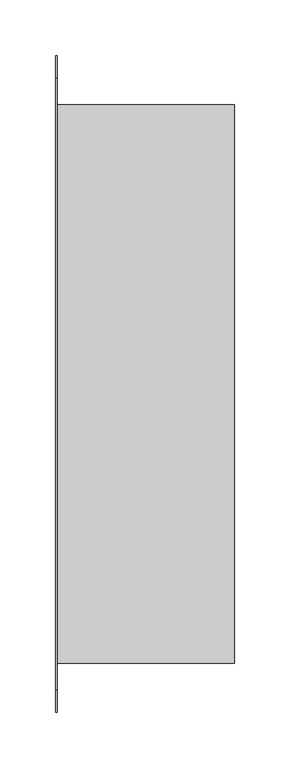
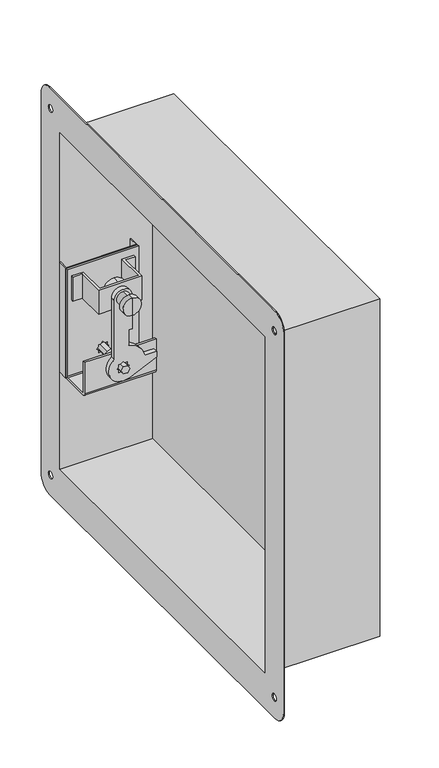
"""IFC4 building model written with IfcOpenShell, lengths in millimetres: damper geometry, СВ_КлапанПротивопожарный_КДМ-2М-3_НЗ_СтеновойПрямоугольный_СВОК : КДМ-3_Привод ЭМ."""

from ifc_helpers import new_model, si_unit, frame, origin, place, context, project, spatial, polyline, circle_curve, outline, extrude, source, transform, mapped, element, save
from ifc_brep_helpers import plane_surface, cylinder_surface, revolved_surface, advanced_brep


def damper_bef475e9(model_context):
    return source(origin(), model_context, "Body", "SolidModel", [
        extrude(outline(polyline([(-78.8298911, 248.8), (-78.8298911, 235.0), (18.8, 235.0), (18.8, 248.8), (20.0, 248.8), (20.0, 233.8), (-80.0298911, 233.8), (-80.0298911, 248.8), (-78.8298911, 248.8)])), frame((0.0, 0.0, -105.0), z_axis=(0.0, 0.0, 1.0), x_axis=(1.0, 0.0, 0.0)), (0.0, 0.0, 1.0), 162.5),
        advanced_brep(
        [(-30.0, 159.8, 40.8717586), (-30.0, 159.8, 15.1282414), (-30.0, 159.8, 28.0), (-30.0, 167.677025, 40.8717586), (-30.0, 167.677025, 15.1282414), (-30.0, 167.677025, 37.0972194), (-30.0, 167.677025, 18.9027806), (-30.0, 181.8, 37.0972194), (-30.0, 181.8, 18.9027806), (-30.0, 181.8, 28.0)],
        [
            (0, 1, circle_curve(frame((-30.0, 159.8, 28.0), z_axis=(0.0, -1.0, 0.0), x_axis=(0.0, 0.0, -1.0)), 12.8717586)),
            (1, 2),
            (2, 0),
            (1, 0, circle_curve(frame((-30.0, 159.8, 28.0), z_axis=(0.0, -1.0, 0.0), x_axis=(0.0, 0.0, -1.0)), 12.8717586)),
            (3, 4, circle_curve(frame((-30.0, 167.677025, 28.0), z_axis=(0.0, -1.0, 0.0), x_axis=(0.0, 0.0, -1.0)), 12.8717586)),
            (4, 1),
            (0, 3),
            (4, 3, circle_curve(frame((-30.0, 167.677025, 28.0), z_axis=(0.0, -1.0, 0.0), x_axis=(0.0, 0.0, -1.0)), 12.8717586)),
            (5, 6, circle_curve(frame((-30.0, 167.677025, 28.0), z_axis=(0.0, -1.0, 0.0), x_axis=(0.0, 0.0, -1.0)), 9.0972194)),
            (6, 4),
            (3, 5),
            (6, 5, circle_curve(frame((-30.0, 167.677025, 28.0), z_axis=(0.0, -1.0, 0.0), x_axis=(0.0, 0.0, -1.0)), 9.0972194)),
            (7, 8, circle_curve(frame((-30.0, 181.8, 28.0), z_axis=(0.0, -1.0, 0.0), x_axis=(0.0, 0.0, -1.0)), 9.0972194)),
            (8, 6),
            (5, 7),
            (8, 7, circle_curve(frame((-30.0, 181.8, 28.0), z_axis=(0.0, -1.0, 0.0), x_axis=(0.0, 0.0, -1.0)), 9.0972194)),
            (9, 8),
            (7, 9),
        ],
        [
            plane_surface(frame((-30.0, 159.8, 28.0), z_axis=(0.0, -1.0, 0.0), x_axis=(0.0, 0.0, -1.0))),
            cylinder_surface(frame((-30.0, 181.8, 28.0), z_axis=(0.0, 1.0, 0.0), x_axis=(0.0, 0.0, -1.0)), 12.8717586),
            plane_surface(frame((-30.0, 167.677025, 28.0), z_axis=(0.0, 1.0, 0.0), x_axis=(0.0, 0.0, -1.0))),
            cylinder_surface(frame((-30.0, 181.8, 28.0), z_axis=(0.0, 1.0, 0.0), x_axis=(0.0, 0.0, -1.0)), 9.0972194),
            plane_surface(frame((-30.0, 181.8, 28.0), z_axis=(0.0, 1.0, 0.0), x_axis=(0.0, 0.0, -1.0))),
        ],
        [
            (0, [[1, 2, 3]]),
            (0, [[4, -3, -2]]),
            (1, [[5, 6, -1, 7]]),
            (1, [[8, -7, -4, -6]]),
            (2, [[9, 10, -5, 11]]),
            (2, [[12, -11, -8, -10]]),
            (3, [[13, 14, -9, 15]]),
            (3, [[16, -15, -12, -14]]),
            (4, [[17, -13, 18]]),
            (4, [[-18, -16, -17]]),
        ],
    ),
        advanced_brep(
        [(-60.37371, 188.3367477, 45.900028), (-0.37371, 188.3367477, 45.900028), (-0.37371, 227.8, 45.900028), (13.1888336, 227.8, 45.900028), (13.1888336, 230.8, 45.900028), (-3.37371, 230.8, 45.900028), (-3.37371, 191.3367477, 45.900028), (-30.37371, 191.3367477, 45.900028), (-57.37371, 191.3367477, 45.900028), (-57.37371, 230.8, 45.900028), (-73.9362537, 230.8, 45.900028), (-73.9362537, 227.8, 45.900028), (-60.37371, 227.8, 45.900028), (-60.37371, 188.3367477, 10.2906263), (-60.37371, 227.8, 10.2906263), (-73.9362537, 227.8, 10.2906263), (-73.9362537, 230.8, 10.2906263), (-57.37371, 230.8, 10.2906263), (-57.37371, 191.3367477, 10.2906263), (-30.37371, 191.3367477, 10.2906263), (-3.37371, 191.3367477, 10.2906263), (-3.37371, 230.8, 10.2906263), (13.1888336, 230.8, 10.2906263), (13.1888336, 227.8, 10.2906263), (-0.37371, 227.8, 10.2906263), (-0.37371, 188.3367477, 10.2906263), (-17.5531764, 188.3367477, 10.2906263), (-30.37371, 188.3367477, 10.2906263), (-42.4468236, 188.3367477, 10.2906263), (-30.37371, 191.3367477, 12.0153496), (-30.0, 191.3367477, 12.0109817), (-30.0, 191.3367477, 43.9890183), (-30.37371, 191.3367477, 43.9846504), (-42.4468236, 181.8, 28.0), (-42.4468236, 181.8, -59.345078), (-21.6781206, 181.8, -93.1864324), (16.7904973, 181.8, -75.5836838), (16.7904973, 181.8, -67.6282215), (0.2857987, 181.8, -67.6282215), (-22.3466574, 181.8, -44.7841255), (-22.3466574, 181.8, -22.0), (-17.5531764, 181.8, -22.0), (-17.5531764, 181.8, 28.0), (-38.4852814, 181.8, -75.0), (-35.9954463, 181.8, -72.5101649), (-35.9954463, 181.8, -69.0045537), (-32.4898351, 181.8, -69.0045537), (-30.0, 181.8, -66.5147186), (-27.5101649, 181.8, -69.0045537), (-24.0045537, 181.8, -69.0045537), (-24.0045537, 181.8, -72.5101649), (-21.5147186, 181.8, -75.0), (-24.0045537, 181.8, -77.4898351), (-24.0045537, 181.8, -80.9954463), (-27.5101649, 181.8, -80.9954463), (-30.0, 181.8, -83.4852814), (-32.4898351, 181.8, -80.9954463), (-35.9954463, 181.8, -80.9954463), (-35.9954463, 181.8, -77.4898351), (-17.5531764, 188.3367477, -22.0), (-22.3466574, 188.3367477, -22.0), (-22.3466574, 188.3367477, -44.7841255), (-6.6455014, 188.3367477, -54.3568384), (-42.4468236, 188.3367477, -54.3568384), (-17.5531764, 188.3367477, 28.0), (-42.4468236, 188.3367477, 28.0), (-42.4468236, 188.3367477, -59.345078), (-21.6781206, 188.3367477, -93.1864324), (16.7904973, 188.3367477, -75.5836838), (16.7904973, 188.3367477, -67.6282215), (0.2857987, 188.3367477, -67.6282215), (-30.0, 203.8, -90.9890183), (-30.0, 203.8, -59.0109817), (-35.9954463, 203.8, -72.5101649), (-38.4852814, 203.8, -75.0), (-35.9954463, 203.8, -77.4898351), (-35.9954463, 203.8, -80.9954463), (-32.4898351, 203.8, -80.9954463), (-30.0, 203.8, -83.4852814), (-27.5101649, 203.8, -80.9954463), (-24.0045537, 203.8, -80.9954463), (-24.0045537, 203.8, -77.4898351), (-21.5147186, 203.8, -75.0), (-24.0045537, 203.8, -72.5101649), (-24.0045537, 203.8, -69.0045537), (-27.5101649, 203.8, -69.0045537), (-30.0, 203.8, -66.5147186), (-32.4898351, 203.8, -69.0045537), (-35.9954463, 203.8, -69.0045537), (-30.0, 203.8, 12.0109817), (-30.0, 203.8, 43.9890183), (-30.0, 191.3367477, -59.0109817), (-30.0, 191.3367477, -90.9890183), (20.0, 233.8, -100.5), (20.0, 233.8, 57.5), (20.0, 230.8, 57.5), (20.0, 230.8, -100.5), (20.0, 229.3, -102.0), (20.0, 192.8662593, -102.0), (20.0, 191.3367477, -100.4704884), (20.0, 191.3367477, -54.3568384), (20.0, 188.3367477, -54.3568384), (20.0, 188.3367477, -100.4704884), (20.0, 192.8662593, -105.0), (20.0, 229.3, -105.0), (-80.0, 233.8, -100.5), (-80.0, 229.3, -105.0), (-80.0, 192.8662593, -105.0), (-80.0, 188.3367477, -100.4704884), (-80.0, 188.3367477, -54.3568384), (-80.0, 191.3367477, -54.3568384), (-80.0, 191.3367477, -100.4704884), (-80.0, 192.8662593, -102.0), (-80.0, 229.3, -102.0), (-80.0, 230.8, -100.5), (-80.0, 230.8, 57.5), (-80.0, 233.8, 57.5), (-35.9954463, 233.8, -72.5101649), (-38.4852814, 233.8, -75.0), (-35.9954463, 233.8, -77.4898351), (-35.9954463, 233.8, -80.9954463), (-32.4898351, 233.8, -80.9954463), (-30.0, 233.8, -83.4852814), (-27.5101649, 233.8, -80.9954463), (-24.0045537, 233.8, -80.9954463), (-24.0045537, 233.8, -77.4898351), (-21.5147186, 233.8, -75.0), (-24.0045537, 233.8, -72.5101649), (-24.0045537, 233.8, -69.0045537), (-27.5101649, 233.8, -69.0045537), (-30.0, 233.8, -66.5147186), (-32.4898351, 233.8, -69.0045537), (-35.9954463, 233.8, -69.0045537), (-38.4852814, 230.8, -75.0), (-35.9954463, 230.8, -72.5101649), (-35.9954463, 230.8, -69.0045537), (-32.4898351, 230.8, -69.0045537), (-30.0, 230.8, -66.5147186), (-27.5101649, 230.8, -69.0045537), (-24.0045537, 230.8, -69.0045537), (-24.0045537, 230.8, -72.5101649), (-21.5147186, 230.8, -75.0), (-24.0045537, 230.8, -77.4898351), (-24.0045537, 230.8, -80.9954463), (-27.5101649, 230.8, -80.9954463), (-30.0, 230.8, -83.4852814), (-32.4898351, 230.8, -80.9954463), (-35.9954463, 230.8, -80.9954463), (-35.9954463, 230.8, -77.4898351)],
        [
            (0, 1),
            (1, 2),
            (2, 3),
            (3, 4),
            (4, 5),
            (5, 6),
            (6, 7),
            (7, 8),
            (8, 9),
            (9, 10),
            (10, 11),
            (11, 12),
            (12, 0),
            (13, 14),
            (14, 15),
            (15, 16),
            (16, 17),
            (17, 18),
            (18, 19),
            (19, 20),
            (20, 21),
            (21, 22),
            (22, 23),
            (23, 24),
            (24, 25),
            (25, 26),
            (26, 27),
            (27, 28),
            (28, 13),
            (1, 25),
            (24, 2),
            (23, 3),
            (22, 4),
            (5, 21),
            (20, 6),
            (19, 29),
            (29, 30, circle_curve(frame((-30.0, 191.3367477, 28.0), z_axis=(0.0, -1.0, 0.0), x_axis=(0.0, 0.0, 1.0)), 15.9890183)),
            (30, 31, circle_curve(frame((-30.0, 191.3367477, 28.0), z_axis=(0.0, -1.0, 0.0), x_axis=(0.0, 0.0, 1.0)), 15.9890183)),
            (31, 32, circle_curve(frame((-30.0, 191.3367477, 28.0), z_axis=(0.0, -1.0, 0.0), x_axis=(0.0, 0.0, 1.0)), 15.9890183)),
            (32, 7),
            (32, 29, circle_curve(frame((-30.0, 191.3367477, 28.0), z_axis=(0.0, -1.0, 0.0), x_axis=(0.0, 0.0, 1.0)), 15.9890183)),
            (18, 8),
            (17, 9),
            (10, 16),
            (15, 11),
            (14, 12),
            (13, 0),
            (33, 34),
            (34, 35, circle_curve(frame((-30.0, 181.8, -75.0), z_axis=(0.0, -1.0, 0.0), x_axis=(0.0, 0.0, 1.0)), 20.0)),
            (35, 36),
            (36, 37),
            (37, 38),
            (38, 39, circle_curve(frame((-30.0, 181.8, -75.0), z_axis=(0.0, -1.0, 0.0), x_axis=(0.0, 0.0, 1.0)), 31.1700613)),
            (39, 40),
            (40, 41),
            (41, 42),
            (42, 33, circle_curve(frame((-30.0, 181.8, 28.0), z_axis=(0.0, -1.0, 0.0), x_axis=(0.0, 0.0, 1.0)), 12.4468236)),
            (43, 44),
            (44, 45),
            (45, 46),
            (46, 47),
            (47, 48),
            (48, 49),
            (49, 50),
            (50, 51),
            (51, 52),
            (52, 53),
            (53, 54),
            (54, 55),
            (55, 56),
            (56, 57),
            (57, 58),
            (58, 43),
            (59, 60),
            (60, 61),
            (61, 62, circle_curve(frame((-30.0, 188.3367477, -75.0), z_axis=(0.0, 1.0, 0.0), x_axis=(0.0, 0.0, 1.0)), 31.1700613)),
            (62, 63),
            (63, 28),
            (26, 59),
            (42, 64),
            (64, 65, circle_curve(frame((-30.0, 188.3367477, 28.0), z_axis=(0.0, -1.0, 0.0), x_axis=(0.0, 0.0, 1.0)), 12.4468236)),
            (65, 33),
            (34, 66),
            (66, 67, circle_curve(frame((-30.0, 188.3367477, -75.0), z_axis=(0.0, -1.0, 0.0), x_axis=(0.0, 0.0, 1.0)), 20.0)),
            (67, 35),
            (65, 28),
            (63, 66),
            (36, 68),
            (68, 69),
            (69, 37),
            (69, 70),
            (70, 38),
            (70, 62, circle_curve(frame((-30.0, 188.3367477, -75.0), z_axis=(0.0, -1.0, 0.0), x_axis=(0.0, 0.0, 1.0)), 31.1700613)),
            (61, 39),
            (60, 40),
            (59, 41),
            (26, 64),
            (71, 72, circle_curve(frame((-30.0, 203.8, -75.0), z_axis=(0.0, 1.0, 0.0), x_axis=(0.0, 0.0, 1.0)), 15.9890183)),
            (72, 71, circle_curve(frame((-30.0, 203.8, -75.0), z_axis=(0.0, 1.0, 0.0), x_axis=(0.0, 0.0, 1.0)), 15.9890183)),
            (73, 74),
            (74, 75),
            (75, 76),
            (76, 77),
            (77, 78),
            (78, 79),
            (79, 80),
            (80, 81),
            (81, 82),
            (82, 83),
            (83, 84),
            (84, 85),
            (85, 86),
            (86, 87),
            (87, 88),
            (88, 73),
            (89, 90, circle_curve(frame((-30.0, 203.8, 28.0), z_axis=(0.0, 1.0, 0.0), x_axis=(0.0, 0.0, 1.0)), 15.9890183)),
            (90, 89, circle_curve(frame((-30.0, 203.8, 28.0), z_axis=(0.0, 1.0, 0.0), x_axis=(0.0, 0.0, 1.0)), 15.9890183)),
            (72, 91),
            (91, 92, circle_curve(frame((-30.0, 191.3367477, -75.0), z_axis=(0.0, 1.0, 0.0), x_axis=(0.0, 0.0, 1.0)), 15.9890183)),
            (92, 71),
            (92, 91, circle_curve(frame((-30.0, 191.3367477, -75.0), z_axis=(0.0, 1.0, 0.0), x_axis=(0.0, 0.0, 1.0)), 15.9890183)),
            (90, 31),
            (30, 89),
            (93, 94),
            (94, 95),
            (95, 96),
            (96, 97, circle_curve(frame((20.0, 229.3, -100.5), z_axis=(-1.0, 0.0, 0.0), x_axis=(0.0, 0.0, 1.0)), 1.5)),
            (97, 98),
            (98, 99, circle_curve(frame((20.0, 192.8662593, -100.4704884), z_axis=(-1.0, 0.0, 0.0), x_axis=(0.0, 0.0, 1.0)), 1.5295116)),
            (99, 100),
            (100, 101),
            (101, 102),
            (102, 103, circle_curve(frame((20.0, 192.8662593, -100.4704884), z_axis=(1.0, 0.0, 0.0), x_axis=(0.0, 0.0, 1.0)), 4.5295116)),
            (103, 104),
            (104, 93, circle_curve(frame((20.0, 229.3, -100.5), z_axis=(1.0, 0.0, 0.0), x_axis=(0.0, 0.0, 1.0)), 4.5)),
            (105, 106, circle_curve(frame((-80.0, 229.3, -100.5), z_axis=(-1.0, 0.0, 0.0), x_axis=(0.0, 0.0, 1.0)), 4.5)),
            (106, 107),
            (107, 108, circle_curve(frame((-80.0, 192.8662593, -100.4704884), z_axis=(-1.0, 0.0, 0.0), x_axis=(0.0, 0.0, 1.0)), 4.5295116)),
            (108, 109),
            (109, 110),
            (110, 111),
            (111, 112, circle_curve(frame((-80.0, 192.8662593, -100.4704884), z_axis=(1.0, 0.0, 0.0), x_axis=(0.0, 0.0, 1.0)), 1.5295116)),
            (112, 113),
            (113, 114, circle_curve(frame((-80.0, 229.3, -100.5), z_axis=(1.0, 0.0, 0.0), x_axis=(0.0, 0.0, 1.0)), 1.5)),
            (114, 115),
            (115, 116),
            (116, 105),
            (93, 105),
            (116, 94),
            (117, 118),
            (118, 119),
            (119, 120),
            (120, 121),
            (121, 122),
            (122, 123),
            (123, 124),
            (124, 125),
            (125, 126),
            (126, 127),
            (127, 128),
            (128, 129),
            (129, 130),
            (130, 131),
            (131, 132),
            (132, 117),
            (115, 95),
            (114, 96),
            (133, 134),
            (134, 135),
            (135, 136),
            (136, 137),
            (137, 138),
            (138, 139),
            (139, 140),
            (140, 141),
            (141, 142),
            (142, 143),
            (143, 144),
            (144, 145),
            (145, 146),
            (146, 147),
            (147, 148),
            (148, 133),
            (113, 97),
            (112, 98),
            (111, 99),
            (110, 100),
            (109, 63),
            (62, 101),
            (68, 67),
            (108, 102),
            (107, 103),
            (106, 104),
            (73, 44),
            (43, 74),
            (117, 134),
            (133, 118),
            (58, 75),
            (148, 119),
            (57, 76),
            (147, 120),
            (56, 77),
            (146, 121),
            (55, 78),
            (145, 122),
            (54, 79),
            (144, 123),
            (53, 80),
            (143, 124),
            (52, 81),
            (142, 125),
            (51, 82),
            (141, 126),
            (50, 83),
            (140, 127),
            (49, 84),
            (139, 128),
            (48, 85),
            (138, 129),
            (47, 86),
            (137, 130),
            (46, 87),
            (136, 131),
            (45, 88),
            (135, 132),
        ],
        [
            plane_surface(frame((-60.37371, 188.3367477, 45.900028), z_axis=(0.0, 0.0, 1.0), x_axis=(1.0, 0.0, 0.0))),
            plane_surface(frame((-60.37371, 188.3367477, 10.2906263), z_axis=(0.0, 0.0, -1.0), x_axis=(-1.0, 0.0, 0.0))),
            plane_surface(frame((-0.37371, 188.3367477, 45.900028), z_axis=(1.0, 0.0, 0.0), x_axis=(0.0, 0.0, -1.0))),
            plane_surface(frame((-0.37371, 227.8, 45.900028), z_axis=(0.0, -1.0, 0.0), x_axis=(0.0, 0.0, -1.0))),
            plane_surface(frame((13.1888336, 227.8, 45.900028), z_axis=(1.0, 0.0, 0.0), x_axis=(0.0, 0.0, -1.0))),
            plane_surface(frame((-3.37371, 230.8, 45.900028), z_axis=(-1.0, 0.0, 0.0), x_axis=(0.0, 0.0, -1.0))),
            plane_surface(frame((-3.37371, 191.3367477, 45.900028), z_axis=(0.0, 1.0, 0.0), x_axis=(0.0, 0.0, -1.0))),
            plane_surface(frame((-30.37371, 191.3367477, 45.900028), z_axis=(0.0, 1.0, 0.0), x_axis=(0.0, 0.0, -1.0))),
            plane_surface(frame((-57.37371, 191.3367477, 45.900028), z_axis=(1.0, 0.0, 0.0), x_axis=(0.0, 0.0, -1.0))),
            plane_surface(frame((-73.9362537, 230.8, 45.900028), z_axis=(-1.0, 0.0, 0.0), x_axis=(0.0, 0.0, -1.0))),
            plane_surface(frame((-73.9362537, 227.8, 45.900028), z_axis=(0.0, -1.0, 0.0), x_axis=(0.0, 0.0, -1.0))),
            plane_surface(frame((-60.37371, 227.8, 45.900028), z_axis=(-1.0, 0.0, 0.0), x_axis=(0.0, 0.0, -1.0))),
            plane_surface(frame((-42.4468236, 181.8, 28.0), z_axis=(0.0, -1.0, 0.0), x_axis=(0.0, 0.0, -1.0))),
            plane_surface(frame((-42.4468236, 188.3367477, 28.0), z_axis=(0.0, 1.0, 0.0), x_axis=(0.0, 0.0, 1.0))),
            cylinder_surface(frame((-30.0, 188.3367477, 28.0), z_axis=(0.0, -1.0, 0.0), x_axis=(0.0, 0.0, 1.0)), 12.4468236),
            cylinder_surface(frame((-30.0, 188.3367477, -75.0), z_axis=(0.0, -1.0, 0.0), x_axis=(0.0, 0.0, 1.0)), 20.0),
            plane_surface(frame((-42.4468236, 181.8, 28.0), z_axis=(-1.0, 0.0, 0.0), x_axis=(0.0, 1.0, 0.0))),
            plane_surface(frame((16.7904973, 181.8, -75.5836838), z_axis=(1.0, 0.0, 0.0), x_axis=(0.0, 1.0, 0.0))),
            plane_surface(frame((16.7904973, 181.8, -67.6282215), z_axis=(0.0, 0.0, 1.0), x_axis=(0.0, 1.0, 0.0))),
            cylinder_surface(frame((-30.0, 188.3367477, -75.0), z_axis=(0.0, -1.0, 0.0), x_axis=(0.0, 0.0, 1.0)), 31.1700613),
            plane_surface(frame((-22.3466574, 181.8, -44.7841255), z_axis=(1.0, 0.0, 0.0), x_axis=(0.0, 1.0, 0.0))),
            plane_surface(frame((-22.3466574, 181.8, -22.0), z_axis=(0.0, 0.0, -1.0), x_axis=(0.0, 1.0, 0.0))),
            plane_surface(frame((-17.5531764, 181.8, -22.0), z_axis=(1.0, 0.0, 0.0), x_axis=(0.0, 1.0, 0.0))),
            plane_surface(frame((-30.0, 188.3367477, -59.0109817), z_axis=(0.0, -1.0, 0.0), x_axis=(-1.0, 0.0, 0.0))),
            plane_surface(frame((-30.0, 203.8, -59.0109817), z_axis=(0.0, 1.0, 0.0), x_axis=(1.0, 0.0, 0.0))),
            cylinder_surface(frame((-30.0, 203.8, -75.0), z_axis=(0.0, -1.0, 0.0), x_axis=(0.0, 0.0, 1.0)), 15.9890183),
            cylinder_surface(frame((-30.0, 248.8, 28.0), z_axis=(0.0, -1.0, 0.0), x_axis=(0.0, 0.0, 1.0)), 15.9890183),
            plane_surface(frame((20.0, 233.8, 57.5), z_axis=(1.0, 0.0, 0.0), x_axis=(0.0, 0.0, 1.0))),
            plane_surface(frame((-80.0, 233.8, 57.5), z_axis=(-1.0, 0.0, 0.0), x_axis=(0.0, 0.0, -1.0))),
            plane_surface(frame((20.0, 233.8, -100.5), z_axis=(0.0, 1.0, 0.0), x_axis=(-1.0, 0.0, 0.0))),
            plane_surface(frame((20.0, 233.8, 57.5), z_axis=(0.0, 0.0, 1.0), x_axis=(-1.0, 0.0, 0.0))),
            plane_surface(frame((20.0, 230.8, 57.5), z_axis=(0.0, -1.0, 0.0), x_axis=(-1.0, 0.0, 0.0))),
            revolved_surface(polyline([(-80.0, 229.3, -99.0), (20.0, 229.3, -99.0)]), (-80.0, 229.3, -100.5), (-1.0, 0.0, 0.0)),
            plane_surface(frame((20.0, 229.3, -102.0), z_axis=(0.0, 0.0, 1.0), x_axis=(-1.0, 0.0, 0.0))),
            revolved_surface(polyline([(-80.0, 192.8662593, -98.94097679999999), (20.0, 192.8662593, -98.94097679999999)]), (-80.0, 192.8662593, -100.4704884), (-1.0, 0.0, 0.0)),
            plane_surface(frame((20.0, 191.3367477, -100.4704884), z_axis=(0.0, 1.0, 0.0), x_axis=(-1.0, 0.0, 0.0))),
            plane_surface(frame((20.0, 191.3367477, -54.3568384), z_axis=(0.0, 0.0, 1.0), x_axis=(-1.0, 0.0, 0.0))),
            plane_surface(frame((20.0, 188.3367477, -54.3568384), z_axis=(0.0, -1.0, 0.0), x_axis=(-1.0, 0.0, 0.0))),
            cylinder_surface(frame((-80.0, 192.8662593, -100.4704884), z_axis=(1.0, 0.0, 0.0), x_axis=(0.0, 0.0, 1.0)), 4.5295116),
            plane_surface(frame((20.0, 192.8662593, -105.0), z_axis=(0.0, 0.0, -1.0), x_axis=(-1.0, 0.0, 0.0))),
            cylinder_surface(frame((-80.0, 229.3, -100.5), z_axis=(1.0, 0.0, 0.0), x_axis=(0.0, 0.0, 1.0)), 4.5),
            plane_surface(frame((-21.6781206, 181.8, -93.1864324), z_axis=(0.41609396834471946, 0.0, -0.909321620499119), x_axis=(0.0, 1.0, 0.0))),
            plane_surface(frame((-35.9954463, 175.8, -72.5101649), z_axis=(0.7071067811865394, 0.0, -0.7071067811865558), x_axis=(0.0, 1.0, 0.0))),
            plane_surface(frame((-38.4852814, 175.8, -75.0), z_axis=(0.7071067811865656, 0.0, 0.7071067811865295), x_axis=(0.0, 1.0, 0.0))),
            plane_surface(frame((-35.9954463, 175.8, -77.4898351), z_axis=(1.0, 0.0, 0.0), x_axis=(0.0, 1.0, 0.0))),
            plane_surface(frame((-35.9954463, 175.8, -80.9954463), z_axis=(0.0, 0.0, 1.0), x_axis=(0.0, 1.0, 0.0))),
            plane_surface(frame((-32.4898351, 175.8, -80.9954463), z_axis=(0.707106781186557, 0.0, 0.707106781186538), x_axis=(0.0, 1.0, 0.0))),
            plane_surface(frame((-30.0, 175.8, -83.4852814), z_axis=(-0.7071067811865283, 0.0, 0.7071067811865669), x_axis=(0.0, 1.0, 0.0))),
            plane_surface(frame((-27.5101649, 175.8, -80.9954463), z_axis=(0.0, 0.0, 1.0), x_axis=(0.0, 1.0, 0.0))),
            plane_surface(frame((-24.0045537, 175.8, -80.9954463), z_axis=(-1.0, 0.0, 0.0), x_axis=(0.0, 1.0, 0.0))),
            plane_surface(frame((-24.0045537, 175.8, -77.4898351), z_axis=(-0.7071067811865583, 0.0, 0.7071067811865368), x_axis=(0.0, 1.0, 0.0))),
            plane_surface(frame((-21.5147186, 175.8, -75.0), z_axis=(-0.7071067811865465, 0.0, -0.7071067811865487), x_axis=(0.0, 1.0, 0.0))),
            plane_surface(frame((-24.0045537, 175.8, -72.5101649), z_axis=(-1.0, 0.0, 0.0), x_axis=(0.0, 1.0, 0.0))),
            plane_surface(frame((-24.0045537, 175.8, -69.0045537), z_axis=(0.0, 0.0, -1.0), x_axis=(0.0, 1.0, 0.0))),
            plane_surface(frame((-27.5101649, 175.8, -69.0045537), z_axis=(-0.7071067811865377, 0.0, -0.7071067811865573), x_axis=(0.0, 1.0, 0.0))),
            plane_surface(frame((-30.0, 175.8, -66.5147186), z_axis=(0.7071067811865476, 0.0, -0.7071067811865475), x_axis=(0.0, 1.0, 0.0))),
            plane_surface(frame((-32.4898351, 175.8, -69.0045537), z_axis=(0.0, 0.0, -1.0), x_axis=(0.0, 1.0, 0.0))),
            plane_surface(frame((-35.9954463, 175.8, -69.0045537), z_axis=(1.0, 0.0, 0.0), x_axis=(0.0, 1.0, 0.0))),
        ],
        [
            (0, [[1, 2, 3, 4, 5, 6, 7, 8, 9, 10, 11, 12, 13]]),
            (1, [[14, 15, 16, 17, 18, 19, 20, 21, 22, 23, 24, 25, 26, 27, 28, 29]]),
            (2, [[-2, 30, -25, 31]]),
            (3, [[-3, -31, -24, 32]]),
            (4, [[-4, -32, -23, 33]]),
            (5, [[-6, 34, -21, 35]]),
            (6, [[-7, -35, -20, 36, 37, 38, 39, 40]]),
            (7, [[-8, -40, 41, -36, -19, 42]]),
            (8, [[-9, -42, -18, 43]]),
            (9, [[-11, 44, -16, 45]]),
            (10, [[-12, -45, -15, 46]]),
            (11, [[-13, -46, -14, 47]]),
            (12, [[48, 49, 50, 51, 52, 53, 54, 55, 56, 57], [58, 59, 60, 61, 62, 63, 64, 65, 66, 67, 68, 69, 70, 71, 72, 73]]),
            (13, [[74, 75, 76, 77, 78, -28, -27, 79]]),
            (14, [[-57, 80, 81, 82]]),
            (15, [[-49, 83, 84, 85]]),
            (16, [[-48, -82, 86, -78, 87, -83]]),
            (17, [[-51, 88, 89, 90]]),
            (18, [[-52, -90, 91, 92]]),
            (19, [[-53, -92, 93, -76, 94]]),
            (20, [[-54, -94, -75, 95]]),
            (21, [[-55, -95, -74, 96]]),
            (22, [[-56, -96, -79, 97, -80]]),
            (23, [[-26, -30, -1, -47, -29, -86, -81, -97]]),
            (24, [[98, 99], [100, 101, 102, 103, 104, 105, 106, 107, 108, 109, 110, 111, 112, 113, 114, 115]]),
            (24, [[116, 117]]),
            (25, [[-99, 118, 119, 120]]),
            (25, [[-98, -120, 121, -118]]),
            (26, [[-117, 122, -38, 123]]),
            (26, [[-116, -123, -37, -41, -39, -122]]),
            (27, [[124, 125, 126, 127, 128, 129, 130, 131, 132, 133, 134, 135]]),
            (28, [[136, 137, 138, 139, 140, 141, 142, 143, 144, 145, 146, 147]]),
            (29, [[-124, 148, -147, 149], [150, 151, 152, 153, 154, 155, 156, 157, 158, 159, 160, 161, 162, 163, 164, 165]]),
            (30, [[-125, -149, -146, 166]]),
            (31, [[-126, -166, -145, 167], [-5, -33, -22, -34], [-10, -43, -17, -44], [168, 169, 170, 171, 172, 173, 174, 175, 176, 177, 178, 179, 180, 181, 182, 183]]),
            (32, [[-127, -167, -144, 184]]),
            (33, [[-128, -184, -143, 185]]),
            (34, [[-129, -185, -142, 186]]),
            (35, [[-130, -186, -141, 187], [-119, -121]]),
            (36, [[-131, -187, -140, 188, -77, 189]]),
            (37, [[-132, -189, -93, -91, -89, 190, -84, -87, -188, -139, 191]]),
            (38, [[-133, -191, -138, 192]]),
            (39, [[-134, -192, -137, 193]]),
            (40, [[-135, -193, -136, -148]]),
            (41, [[-50, -85, -190, -88]]),
            (42, [[194, -58, 195, -100]]),
            (42, [[196, -168, 197, -150]]),
            (43, [[-195, -73, 198, -101]]),
            (43, [[-197, -183, 199, -151]]),
            (44, [[-198, -72, 200, -102]]),
            (44, [[-199, -182, 201, -152]]),
            (45, [[-200, -71, 202, -103]]),
            (45, [[-201, -181, 203, -153]]),
            (46, [[-202, -70, 204, -104]]),
            (46, [[-203, -180, 205, -154]]),
            (47, [[-204, -69, 206, -105]]),
            (47, [[-205, -179, 207, -155]]),
            (48, [[-206, -68, 208, -106]]),
            (48, [[-207, -178, 209, -156]]),
            (49, [[-208, -67, 210, -107]]),
            (49, [[-209, -177, 211, -157]]),
            (50, [[-210, -66, 212, -108]]),
            (50, [[-211, -176, 213, -158]]),
            (51, [[-212, -65, 214, -109]]),
            (51, [[-213, -175, 215, -159]]),
            (52, [[-214, -64, 216, -110]]),
            (52, [[-215, -174, 217, -160]]),
            (53, [[-216, -63, 218, -111]]),
            (53, [[-217, -173, 219, -161]]),
            (54, [[-218, -62, 220, -112]]),
            (54, [[-219, -172, 221, -162]]),
            (55, [[-220, -61, 222, -113]]),
            (55, [[-221, -171, 223, -163]]),
            (56, [[-222, -60, 224, -114]]),
            (56, [[-223, -170, 225, -164]]),
            (57, [[-194, -115, -224, -59]]),
            (57, [[-196, -165, -225, -169]]),
        ],
    ),
        extrude(outline(polyline([(-69.8167305, -27.0074379), (-69.8167305, -32.9925621), (-75.0, -35.9851241), (-80.1832695, -32.9925621), (-80.1832695, -27.0074379), (-75.0, -24.0148759), (-69.8167305, -27.0074379)])), frame((0.0, 175.8, 0.0), z_axis=(0.0, 1.0, 0.0), x_axis=(0.0, 0.0, 1.0)), (0.0, 0.0, 1.0), 73.0),
        extrude(outline(polyline([(50.0, -248.8), (50.0, 248.8), (70.0, 248.8), (70.0, -248.8), (50.0, -248.8)])), frame((0.0, 0.0, -248.8), z_axis=(0.0, 0.0, 1.0), x_axis=(1.0, 0.0, 0.0)), (0.0, 0.0, 1.0), 497.6),
        advanced_brep(
        [(-80.0, -273.8, 301.3), (-80.0, 273.8, 301.3), (-80.0, 293.8, 281.3), (-80.0, 293.8, -281.3), (-80.0, 273.8, -301.3), (-80.0, -273.8, -301.3), (-80.0, -293.8, -281.3), (-80.0, -293.8, 281.3), (-80.0, -248.8, 248.8), (-80.0, -248.8, -248.8), (-80.0, 248.8, -248.8), (-80.0, 248.8, 248.8), (-80.0, 266.3, 271.3), (-80.0, 276.3, 271.3), (-80.0, -276.3, 271.3), (-80.0, -266.3, 271.3), (-80.0, -276.3, -271.3), (-80.0, -266.3, -271.3), (-80.0, 266.3, -271.3), (-80.0, 276.3, -271.3), (-78.8, -273.8, 301.3), (-78.8, -293.8, 281.3), (-78.8, -293.8, -281.3), (-78.8, -273.8, -301.3), (-78.8, 273.8, -301.3), (-78.8, 293.8, -281.3), (-78.8, 293.8, 281.3), (-78.8, 273.8, 301.3), (-78.8, -250.0, 250.0), (-78.8, 250.0, 250.0), (-78.8, 250.0, -250.0), (-78.8, -250.0, -250.0), (-78.8, 276.3, 271.3), (-78.8, 266.3, 271.3), (-78.8, -266.3, 271.3), (-78.8, -276.3, 271.3), (-78.8, -266.3, -271.3), (-78.8, -276.3, -271.3), (-78.8, 276.3, -271.3), (-78.8, 266.3, -271.3), (80.0, 250.0, 250.0), (80.0, -250.0, 250.0), (80.0, -250.0, -250.0), (80.0, 250.0, -250.0), (80.0, -248.8, 248.8), (80.0, 248.8, 248.8), (80.0, 248.8, -248.8), (80.0, -248.8, -248.8)],
        [
            (0, 1),
            (1, 2, circle_curve(frame((-80.0, 273.8, 281.3), z_axis=(-1.0, 0.0, 0.0), x_axis=(0.0, 1.0, 0.0)), 20.0)),
            (2, 3),
            (3, 4, circle_curve(frame((-80.0, 273.8, -281.3), z_axis=(-1.0, 0.0, 0.0), x_axis=(0.0, 1.0, 0.0)), 20.0)),
            (4, 5),
            (5, 6, circle_curve(frame((-80.0, -273.8, -281.3), z_axis=(-1.0, 0.0, 0.0), x_axis=(0.0, 1.0, 0.0)), 20.0)),
            (6, 7),
            (7, 0, circle_curve(frame((-80.0, -273.8, 281.3), z_axis=(-1.0, 0.0, 0.0), x_axis=(0.0, 1.0, 0.0)), 20.0)),
            (8, 9),
            (9, 10),
            (10, 11),
            (11, 8),
            (12, 13, circle_curve(frame((-80.0, 271.3, 271.3), z_axis=(1.0, 0.0, 0.0), x_axis=(0.0, 1.0, 0.0)), 5.0)),
            (13, 12, circle_curve(frame((-80.0, 271.3, 271.3), z_axis=(1.0, 0.0, 0.0), x_axis=(0.0, 1.0, 0.0)), 5.0)),
            (14, 15, circle_curve(frame((-80.0, -271.3, 271.3), z_axis=(1.0, 0.0, 0.0), x_axis=(0.0, 1.0, 0.0)), 5.0)),
            (15, 14, circle_curve(frame((-80.0, -271.3, 271.3), z_axis=(1.0, 0.0, 0.0), x_axis=(0.0, 1.0, 0.0)), 5.0)),
            (16, 17, circle_curve(frame((-80.0, -271.3, -271.3), z_axis=(1.0, 0.0, 0.0), x_axis=(0.0, 1.0, 0.0)), 5.0)),
            (17, 16, circle_curve(frame((-80.0, -271.3, -271.3), z_axis=(1.0, 0.0, 0.0), x_axis=(0.0, 1.0, 0.0)), 5.0)),
            (18, 19, circle_curve(frame((-80.0, 271.3, -271.3), z_axis=(1.0, 0.0, 0.0), x_axis=(0.0, 1.0, 0.0)), 5.0)),
            (19, 18, circle_curve(frame((-80.0, 271.3, -271.3), z_axis=(1.0, 0.0, 0.0), x_axis=(0.0, 1.0, 0.0)), 5.0)),
            (20, 21, circle_curve(frame((-78.8, -273.8, 281.3), z_axis=(1.0, 0.0, 0.0), x_axis=(0.0, 1.0, 0.0)), 20.0)),
            (21, 22),
            (22, 23, circle_curve(frame((-78.8, -273.8, -281.3), z_axis=(1.0, 0.0, 0.0), x_axis=(0.0, 1.0, 0.0)), 20.0)),
            (23, 24),
            (24, 25, circle_curve(frame((-78.8, 273.8, -281.3), z_axis=(1.0, 0.0, 0.0), x_axis=(0.0, 1.0, 0.0)), 20.0)),
            (25, 26),
            (26, 27, circle_curve(frame((-78.8, 273.8, 281.3), z_axis=(1.0, 0.0, 0.0), x_axis=(0.0, 1.0, 0.0)), 20.0)),
            (27, 20),
            (28, 29),
            (29, 30),
            (30, 31),
            (31, 28),
            (32, 33, circle_curve(frame((-78.8, 271.3, 271.3), z_axis=(-1.0, 0.0, 0.0), x_axis=(0.0, 1.0, 0.0)), 5.0)),
            (33, 32, circle_curve(frame((-78.8, 271.3, 271.3), z_axis=(-1.0, 0.0, 0.0), x_axis=(0.0, 1.0, 0.0)), 5.0)),
            (34, 35, circle_curve(frame((-78.8, -271.3, 271.3), z_axis=(-1.0, 0.0, 0.0), x_axis=(0.0, 1.0, 0.0)), 5.0)),
            (35, 34, circle_curve(frame((-78.8, -271.3, 271.3), z_axis=(-1.0, 0.0, 0.0), x_axis=(0.0, 1.0, 0.0)), 5.0)),
            (36, 37, circle_curve(frame((-78.8, -271.3, -271.3), z_axis=(-1.0, 0.0, 0.0), x_axis=(0.0, 1.0, 0.0)), 5.0)),
            (37, 36, circle_curve(frame((-78.8, -271.3, -271.3), z_axis=(-1.0, 0.0, 0.0), x_axis=(0.0, 1.0, 0.0)), 5.0)),
            (38, 39, circle_curve(frame((-78.8, 271.3, -271.3), z_axis=(-1.0, 0.0, 0.0), x_axis=(0.0, 1.0, 0.0)), 5.0)),
            (39, 38, circle_curve(frame((-78.8, 271.3, -271.3), z_axis=(-1.0, 0.0, 0.0), x_axis=(0.0, 1.0, 0.0)), 5.0)),
            (40, 41),
            (41, 42),
            (42, 43),
            (43, 40),
            (44, 45),
            (45, 46),
            (46, 47),
            (47, 44),
            (40, 29),
            (28, 41),
            (31, 42),
            (30, 43),
            (11, 45),
            (44, 8),
            (10, 46),
            (9, 47),
            (6, 22),
            (21, 7),
            (4, 24),
            (23, 5),
            (2, 26),
            (25, 3),
            (0, 20),
            (27, 1),
            (32, 13),
            (12, 33),
            (34, 15),
            (14, 35),
            (36, 17),
            (16, 37),
            (38, 19),
            (18, 39),
        ],
        [
            plane_surface(frame((-80.0, 248.8, 248.8), z_axis=(-1.0, 0.0, 0.0), x_axis=(0.0, -1.0, 0.0))),
            plane_surface(frame((-78.8, 248.8, 248.8), z_axis=(1.0, 0.0, 0.0), x_axis=(0.0, 1.0, 0.0))),
            plane_surface(frame((80.0, 248.8, 248.8), z_axis=(1.0, 0.0, 0.0), x_axis=(0.0, 1.0, 0.0))),
            plane_surface(frame((80.0, 250.0, 250.0), z_axis=(0.0, 0.0, 1.0), x_axis=(-1.0, 0.0, 0.0))),
            plane_surface(frame((80.0, -250.0, 250.0), z_axis=(0.0, -1.0, 0.0), x_axis=(-1.0, 0.0, 0.0))),
            plane_surface(frame((80.0, -250.0, -250.0), z_axis=(0.0, 0.0, -1.0), x_axis=(-1.0, 0.0, 0.0))),
            plane_surface(frame((80.0, 250.0, -250.0), z_axis=(0.0, 1.0, 0.0), x_axis=(-1.0, 0.0, 0.0))),
            plane_surface(frame((-78.8, -248.8, 248.8), z_axis=(0.0, 0.0, -1.0), x_axis=(-1.0, 0.0, 0.0))),
            plane_surface(frame((-78.8, 248.8, 248.8), z_axis=(0.0, -1.0, 0.0), x_axis=(-1.0, 0.0, 0.0))),
            plane_surface(frame((-78.8, 248.8, -248.8), z_axis=(0.0, 0.0, 1.0), x_axis=(-1.0, 0.0, 0.0))),
            plane_surface(frame((-78.8, -248.8, -248.8), z_axis=(0.0, 1.0, 0.0), x_axis=(-1.0, 0.0, 0.0))),
            plane_surface(frame((-78.8, -293.8, 281.3), z_axis=(0.0, -1.0, 0.0), x_axis=(-1.0, 0.0, 0.0))),
            plane_surface(frame((-78.8, -273.8, -301.3), z_axis=(0.0, 0.0, -1.0), x_axis=(-1.0, 0.0, 0.0))),
            plane_surface(frame((-78.8, 293.8, -281.3), z_axis=(0.0, 1.0, 0.0), x_axis=(-1.0, 0.0, 0.0))),
            plane_surface(frame((-78.8, 273.8, 301.3), z_axis=(0.0, 0.0, 1.0), x_axis=(-1.0, 0.0, 0.0))),
            revolved_surface(polyline([(-78.8, 276.3, 271.3), (-80.0, 276.3, 271.3)]), (-80.0, 271.3, 271.3), (1.0, 0.0, 0.0)),
            revolved_surface(polyline([(-78.8, -266.3, 271.3), (-80.0, -266.3, 271.3)]), (-10.0, -271.3, 271.3), (1.0, 0.0, 0.0)),
            revolved_surface(polyline([(-78.8, -266.3, -271.3), (-80.0, -266.3, -271.3)]), (-10.0, -271.3, -271.3), (1.0, 0.0, 0.0)),
            revolved_surface(polyline([(-78.8, 276.3, -271.3), (-80.0, 276.3, -271.3)]), (-10.0, 271.3, -271.3), (1.0, 0.0, 0.0)),
            cylinder_surface(frame((0.0, -273.8, 281.3), z_axis=(1.0, 0.0, 0.0), x_axis=(0.0, 1.0, 0.0)), 20.0),
            cylinder_surface(frame((0.0, -273.8, -281.3), z_axis=(1.0, 0.0, 0.0), x_axis=(0.0, 1.0, 0.0)), 20.0),
            cylinder_surface(frame((0.0, 273.8, -281.3), z_axis=(1.0, 0.0, 0.0), x_axis=(0.0, 1.0, 0.0)), 20.0),
            cylinder_surface(frame((0.0, 273.8, 281.3), z_axis=(1.0, 0.0, 0.0), x_axis=(0.0, 1.0, 0.0)), 20.0),
        ],
        [
            (0, [[1, 2, 3, 4, 5, 6, 7, 8], [9, 10, 11, 12], [13, 14], [15, 16], [17, 18], [19, 20]]),
            (1, [[21, 22, 23, 24, 25, 26, 27, 28], [29, 30, 31, 32], [33, 34], [35, 36], [37, 38], [39, 40]]),
            (2, [[41, 42, 43, 44], [45, 46, 47, 48]]),
            (3, [[-41, 49, -29, 50]]),
            (4, [[-42, -50, -32, 51]]),
            (5, [[-43, -51, -31, 52]]),
            (6, [[-44, -52, -30, -49]]),
            (7, [[-12, 53, -45, 54]]),
            (8, [[-53, -11, 55, -46]]),
            (9, [[-55, -10, 56, -47]]),
            (10, [[-56, -9, -54, -48]]),
            (11, [[-7, 57, -22, 58]]),
            (12, [[-5, 59, -24, 60]]),
            (13, [[-3, 61, -26, 62]]),
            (14, [[-1, 63, -28, 64]]),
            (15, [[65, -13, 66, -33]]),
            (15, [[-65, -34, -66, -14]]),
            (16, [[67, -15, 68, -35]]),
            (16, [[-67, -36, -68, -16]]),
            (17, [[69, -17, 70, -37]]),
            (17, [[-69, -38, -70, -18]]),
            (18, [[71, -19, 72, -39]]),
            (18, [[-71, -40, -72, -20]]),
            (19, [[-8, -58, -21, -63]]),
            (20, [[-6, -60, -23, -57]]),
            (21, [[-4, -62, -25, -59]]),
            (22, [[-2, -64, -27, -61]]),
        ],
    ),
    ])


if __name__ == "__main__":
    model = new_model("IFC4")
    model_context = context("Model", 3, world=origin())
    ifc_project = project(units=[si_unit("LENGTHUNIT", "METRE", prefix="MILLI")], contexts=[model_context])
    site = spatial("IfcSite", under=ifc_project)
    building = spatial("IfcBuilding", under=site)
    placement = place(None, origin())
    damper_shape = damper_bef475e9(model_context)
    element("IfcDamper", 1, ObjectType="СВ_КлапанПротивопожарный_КДМ-2М-3_НЗ_СтеновойПрямоугольный_СВОК : КДМ-3_Привод ЭМ", at=placement, inside=building, context=model_context, shape_type="MappedRepresentation", body=[
        mapped(damper_shape, transform((0.0, 0.0, 0.0), x_axis=(1.0, 0.0, 0.0), y_axis=(0.0, 1.0, 0.0), z_axis=(0.0, 0.0, 1.0))),
    ])
    save(model, "model.ifc")
